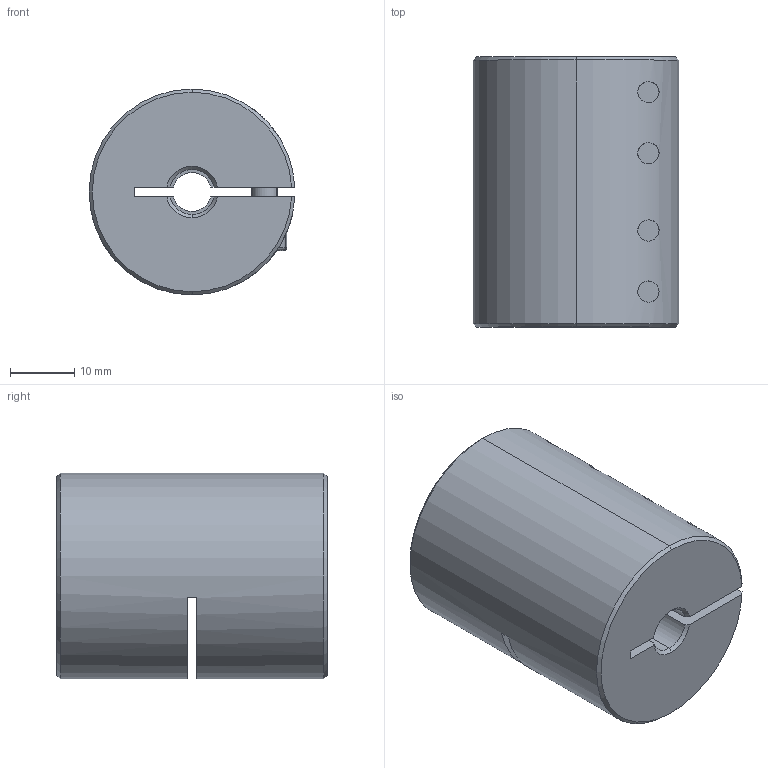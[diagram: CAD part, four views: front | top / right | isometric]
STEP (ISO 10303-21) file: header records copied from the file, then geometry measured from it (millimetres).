
FILE_DESCRIPTION (( 'STEP AP203' ), '1' );
FILE_NAME ('LL-B-D32L42-6-7.STEP', '2021-11-05T07:34:05', ( '' ), ( '' ), 'SwSTEP 2.0', 'SolidWorks 2018', '' );
FILE_SCHEMA (( 'CONFIG_CONTROL_DESIGN' ));
Length unit declared in the file: millimetre
Products named in the file (1): LL-B-D32L42-6-7
Bounding box: 31.98 x 42 x 32 mm (x, y, z)
Volume: 29782.6 mm3; surface area: 10271.7 mm2
Topology: 1 solids, 1 shells, 193 faces, 492 edges, 309 vertices
Faces by surface type: plane 88, cylinder 77, cone 20, torus 8
Entity records: 6376 total; most frequent: CARTESIAN_POINT 1559, DIRECTION 1037, ORIENTED_EDGE 968, EDGE_CURVE 484, AXIS2_PLACEMENT_3D 403, VERTEX_POINT 309, VECTOR 231, LINE 231
